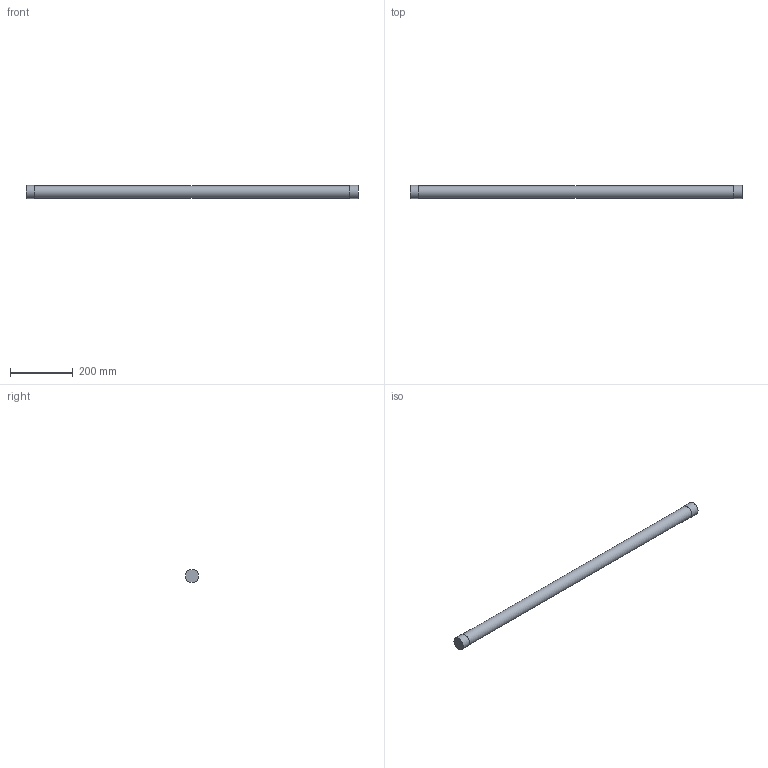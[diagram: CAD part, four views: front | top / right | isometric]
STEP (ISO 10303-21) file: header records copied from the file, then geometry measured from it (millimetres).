
FILE_DESCRIPTION(('FreeCAD Model'),'2;1');
FILE_NAME('Open CASCADE Shape Model','2026-10-12T23:06:14',('Author'),( ''),'Open CASCADE STEP processor 7.8','FreeCAD','Unknown');
FILE_SCHEMA(('AUTOMOTIVE_DESIGN { 1 0 10303 214 1 1 1 1 }'));
Length unit declared in the file: millimetre
Products named in the file (4): noodles; Rope_bucatini_1m; EndCap_Start; EndCap_End
Assembly tree (3 placements, depth 2):
  noodles
    Rope_bucatini_1m
    EndCap_Start
    EndCap_End
Bounding box: 1056 x 41.6 x 41.6 mm (x, y, z)
Volume: 1332751.1 mm3; surface area: 140932.3 mm2
Topology: 3 solids, 3 shells, 9 faces, 9 edges, 6 vertices
Faces by surface type: plane 6, cylinder 3
Full cylindrical faces by diameter (mm): 40 x1, 41.6 x2
Entity records: 229 total; most frequent: DIRECTION 41, CARTESIAN_POINT 28, AXIS2_PLACEMENT_3D 19, ORIENTED_EDGE 18, ADVANCED_FACE 9, FACE_BOUND 9, EDGE_LOOP 9, EDGE_CURVE 9
